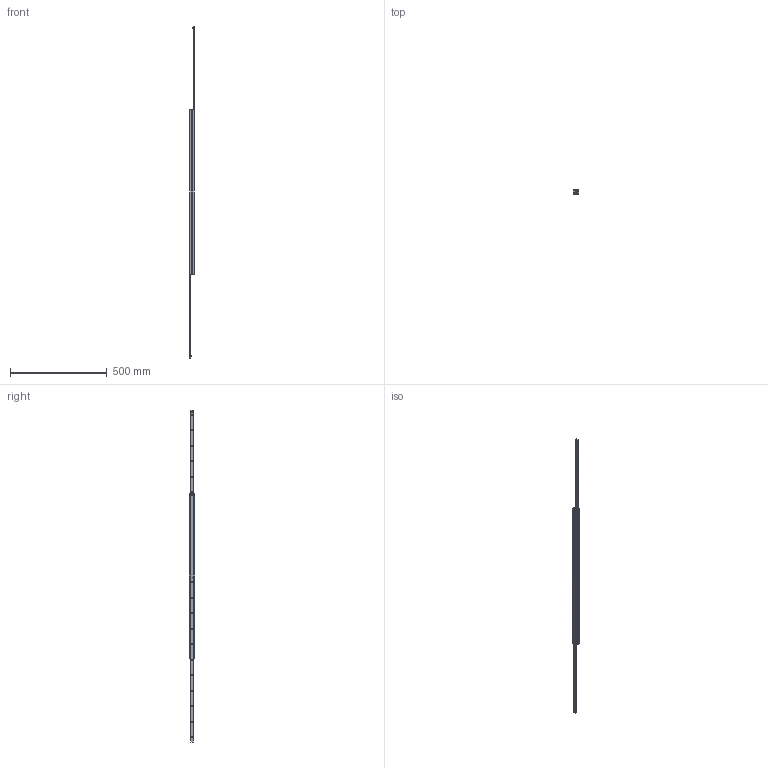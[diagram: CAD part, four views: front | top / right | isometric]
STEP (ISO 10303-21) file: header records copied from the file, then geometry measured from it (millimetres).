
FILE_DESCRIPTION( ( 'STEP AP214' ), '1' );
FILE_NAME( 'p:/temp/worker_84/temp/exporttempdir_3784_396_d6MF7/format_1/DEF28-850866.stp', '2020-03-20T19:47:00', ( 'License CC BY-ND 4.0' ), ( 'CADENAS' ), ' ', 'PARTsolutions', ' ' );
FILE_SCHEMA( ( 'AUTOMOTIVE_DESIGN { 1 0 10303 214 1 1 1 1 }' ) );
Length unit declared in the file: millimetre
Products named in the file (4): DEF28-850866; _282185086612-gf; _28218508661-ei; _282185086611-gf
Assembly tree (4 placements, depth 2):
  DEF28-850866
    _282185086612-gf
    _28218508661-ei  x2
    _282185086611-gf
Bounding box: 26 x 28 x 1716 mm (x, y, z)
Volume: 412209.9 mm3; surface area: 245808.8 mm2
Topology: 4 solids, 4 shells, 216 faces, 542 edges, 346 vertices
Faces by surface type: plane 102, cylinder 66, cone 48
Full cylindrical faces by diameter (mm): 4.134 x22, 5 x2
Entity records: 6172 total; most frequent: DIRECTION 852, CARTESIAN_POINT 788, ORIENTED_EDGE 700, EDGE_CURVE 350, AXIS2_PLACEMENT_3D 328, EDGE_LOOP 290, VERTEX_POINT 264, LINE 196
